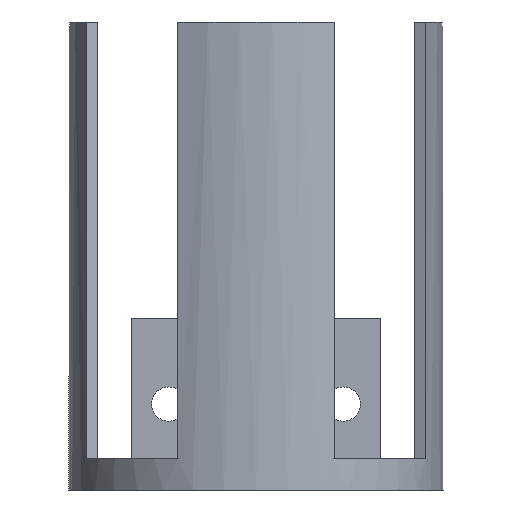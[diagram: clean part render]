
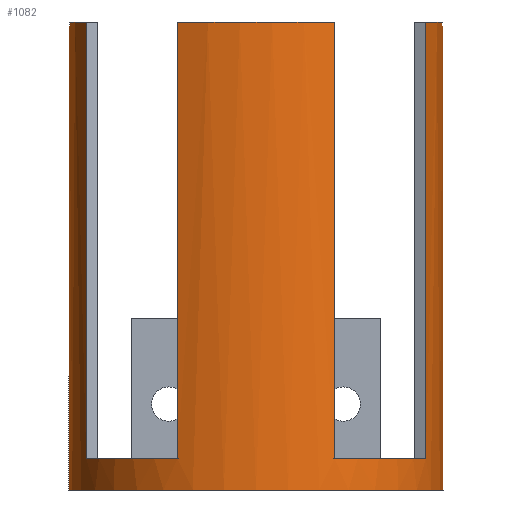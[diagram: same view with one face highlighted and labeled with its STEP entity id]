
A CAD part, front view. The second image highlights one B-rep face of the part: STEP entity #1082.
In plain terms, the highlighted cylindrical face has radius 30 mm (diameter 60 mm), a partial arc.
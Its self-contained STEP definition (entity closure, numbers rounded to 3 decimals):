
#55=LINE('',#1605,#169);
#57=LINE('',#1609,#171);
#83=LINE('',#1687,#197);
#84=LINE('',#1689,#198);
#89=LINE('',#1703,#203);
#90=LINE('',#1705,#204);
#119=LINE('',#1780,#233);
#120=LINE('',#1782,#234);
#169=VECTOR('',#1301,10.);
#171=VECTOR('',#1305,10.);
#197=VECTOR('',#1379,10.);
#198=VECTOR('',#1382,10.);
#203=VECTOR('',#1397,10.);
#204=VECTOR('',#1400,10.);
#233=VECTOR('',#1473,10.);
#234=VECTOR('',#1474,10.);
#258=CYLINDRICAL_SURFACE('',#1189,30.);
#326=FACE_OUTER_BOUND('',#395,.T.);
#395=EDGE_LOOP('',(#931,#932,#933,#934,#935,#936,#937,#938,#939,#940,#941,
#942,#943,#944,#945,#946));
#417=CIRCLE('',#1134,30.);
#418=CIRCLE('',#1138,30.);
#422=CIRCLE('',#1142,30.);
#424=CIRCLE('',#1144,30.);
#426=CIRCLE('',#1146,30.);
#431=CIRCLE('',#1159,30.);
#433=CIRCLE('',#1165,30.);
#441=CIRCLE('',#1190,30.);
#474=VERTEX_POINT('',#1598);
#475=VERTEX_POINT('',#1599);
#476=VERTEX_POINT('',#1604);
#477=VERTEX_POINT('',#1608);
#478=VERTEX_POINT('',#1612);
#486=VERTEX_POINT('',#1629);
#487=VERTEX_POINT('',#1631);
#490=VERTEX_POINT('',#1637);
#491=VERTEX_POINT('',#1639);
#494=VERTEX_POINT('',#1645);
#504=VERTEX_POINT('',#1681);
#505=VERTEX_POINT('',#1682);
#508=VERTEX_POINT('',#1697);
#509=VERTEX_POINT('',#1698);
#533=VERTEX_POINT('',#1779);
#534=VERTEX_POINT('',#1781);
#586=EDGE_CURVE('',#474,#475,#417,.T.);
#589=EDGE_CURVE('',#476,#475,#55,.T.);
#591=EDGE_CURVE('',#477,#474,#57,.T.);
#593=EDGE_CURVE('',#476,#478,#418,.T.);
#603=EDGE_CURVE('',#486,#487,#422,.T.);
#607=EDGE_CURVE('',#490,#491,#424,.T.);
#611=EDGE_CURVE('',#494,#477,#426,.T.);
#628=EDGE_CURVE('',#504,#505,#431,.T.);
#631=EDGE_CURVE('',#490,#505,#83,.T.);
#632=EDGE_CURVE('',#487,#504,#84,.T.);
#636=EDGE_CURVE('',#508,#509,#433,.T.);
#639=EDGE_CURVE('',#494,#509,#89,.T.);
#640=EDGE_CURVE('',#491,#508,#90,.T.);
#676=EDGE_CURVE('',#533,#478,#119,.T.);
#677=EDGE_CURVE('',#486,#534,#120,.T.);
#678=EDGE_CURVE('',#533,#534,#441,.T.);
#931=ORIENTED_EDGE('',*,*,#676,.T.);
#932=ORIENTED_EDGE('',*,*,#593,.F.);
#933=ORIENTED_EDGE('',*,*,#589,.T.);
#934=ORIENTED_EDGE('',*,*,#586,.F.);
#935=ORIENTED_EDGE('',*,*,#591,.F.);
#936=ORIENTED_EDGE('',*,*,#611,.F.);
#937=ORIENTED_EDGE('',*,*,#639,.T.);
#938=ORIENTED_EDGE('',*,*,#636,.F.);
#939=ORIENTED_EDGE('',*,*,#640,.F.);
#940=ORIENTED_EDGE('',*,*,#607,.F.);
#941=ORIENTED_EDGE('',*,*,#631,.T.);
#942=ORIENTED_EDGE('',*,*,#628,.F.);
#943=ORIENTED_EDGE('',*,*,#632,.F.);
#944=ORIENTED_EDGE('',*,*,#603,.F.);
#945=ORIENTED_EDGE('',*,*,#677,.T.);
#946=ORIENTED_EDGE('',*,*,#678,.F.);
#1082=ADVANCED_FACE('',(#326),#258,.T.);
#1134=AXIS2_PLACEMENT_3D('',#1600,#1295,#1296);
#1138=AXIS2_PLACEMENT_3D('',#1613,#1309,#1310);
#1142=AXIS2_PLACEMENT_3D('',#1632,#1323,#1324);
#1144=AXIS2_PLACEMENT_3D('',#1640,#1329,#1330);
#1146=AXIS2_PLACEMENT_3D('',#1647,#1335,#1336);
#1159=AXIS2_PLACEMENT_3D('',#1683,#1373,#1374);
#1165=AXIS2_PLACEMENT_3D('',#1699,#1391,#1392);
#1189=AXIS2_PLACEMENT_3D('',#1778,#1471,#1472);
#1190=AXIS2_PLACEMENT_3D('',#1783,#1475,#1476);
#1295=DIRECTION('center_axis',(0.,0.,1.));
#1296=DIRECTION('ref_axis',(1.,0.,0.));
#1301=DIRECTION('',(0.,0.,1.));
#1305=DIRECTION('',(0.,0.,1.));
#1309=DIRECTION('center_axis',(0.,0.,1.));
#1310=DIRECTION('ref_axis',(1.,0.,0.));
#1323=DIRECTION('center_axis',(0.,0.,1.));
#1324=DIRECTION('ref_axis',(1.,0.,0.));
#1329=DIRECTION('center_axis',(0.,0.,1.));
#1330=DIRECTION('ref_axis',(1.,0.,0.));
#1335=DIRECTION('center_axis',(0.,0.,1.));
#1336=DIRECTION('ref_axis',(1.,0.,0.));
#1373=DIRECTION('center_axis',(0.,0.,1.));
#1374=DIRECTION('ref_axis',(-1.,0.,0.));
#1379=DIRECTION('',(0.,0.,1.));
#1382=DIRECTION('',(0.,0.,1.));
#1391=DIRECTION('center_axis',(0.,0.,1.));
#1392=DIRECTION('ref_axis',(0.,-1.,0.));
#1397=DIRECTION('',(0.,0.,1.));
#1400=DIRECTION('',(0.,0.,1.));
#1471=DIRECTION('center_axis',(0.,0.,1.));
#1472=DIRECTION('ref_axis',(0.,-1.,0.));
#1473=DIRECTION('',(0.,0.,1.));
#1474=DIRECTION('',(0.,0.,-1.));
#1475=DIRECTION('center_axis',(0.,0.,-1.));
#1476=DIRECTION('ref_axis',(1.,0.,0.));
#1598=CARTESIAN_POINT('',(47.217,-65.619,61.226));
#1599=CARTESIAN_POINT('',(47.217,-40.381,61.226));
#1600=CARTESIAN_POINT('Origin',(20.,-53.,61.226));
#1604=CARTESIAN_POINT('',(47.217,-40.381,-8.774));
#1605=CARTESIAN_POINT('',(47.217,-40.381,-8.774));
#1608=CARTESIAN_POINT('',(47.217,-65.619,-8.774));
#1609=CARTESIAN_POINT('',(47.217,-65.619,-8.774));
#1612=CARTESIAN_POINT('',(40.,-30.639,-8.774));
#1613=CARTESIAN_POINT('Origin',(20.,-53.,-8.774));
#1629=CARTESIAN_POINT('',(0.,-30.639,-8.774));
#1631=CARTESIAN_POINT('',(-7.217,-40.381,-8.774));
#1632=CARTESIAN_POINT('Origin',(20.,-53.,-8.774));
#1637=CARTESIAN_POINT('',(-7.217,-65.619,-8.774));
#1639=CARTESIAN_POINT('',(7.381,-80.217,-8.774));
#1640=CARTESIAN_POINT('Origin',(20.,-53.,-8.774));
#1645=CARTESIAN_POINT('',(32.619,-80.217,-8.774));
#1647=CARTESIAN_POINT('Origin',(20.,-53.,-8.774));
#1681=CARTESIAN_POINT('',(-7.217,-40.381,61.226));
#1682=CARTESIAN_POINT('',(-7.217,-65.619,61.226));
#1683=CARTESIAN_POINT('Origin',(20.,-53.,61.226));
#1687=CARTESIAN_POINT('',(-7.217,-65.619,-8.774));
#1689=CARTESIAN_POINT('',(-7.217,-40.381,-8.774));
#1697=CARTESIAN_POINT('',(7.381,-80.217,61.226));
#1698=CARTESIAN_POINT('',(32.619,-80.217,61.226));
#1699=CARTESIAN_POINT('Origin',(20.,-53.,61.226));
#1703=CARTESIAN_POINT('',(32.619,-80.217,-8.774));
#1705=CARTESIAN_POINT('',(7.381,-80.217,-8.774));
#1778=CARTESIAN_POINT('Origin',(20.,-53.,-13.774));
#1779=CARTESIAN_POINT('',(40.,-30.639,-13.774));
#1780=CARTESIAN_POINT('',(40.,-30.639,-13.774));
#1781=CARTESIAN_POINT('',(0.,-30.639,-13.774));
#1782=CARTESIAN_POINT('',(0.,-30.639,-13.774));
#1783=CARTESIAN_POINT('Origin',(20.,-53.,-13.774));
